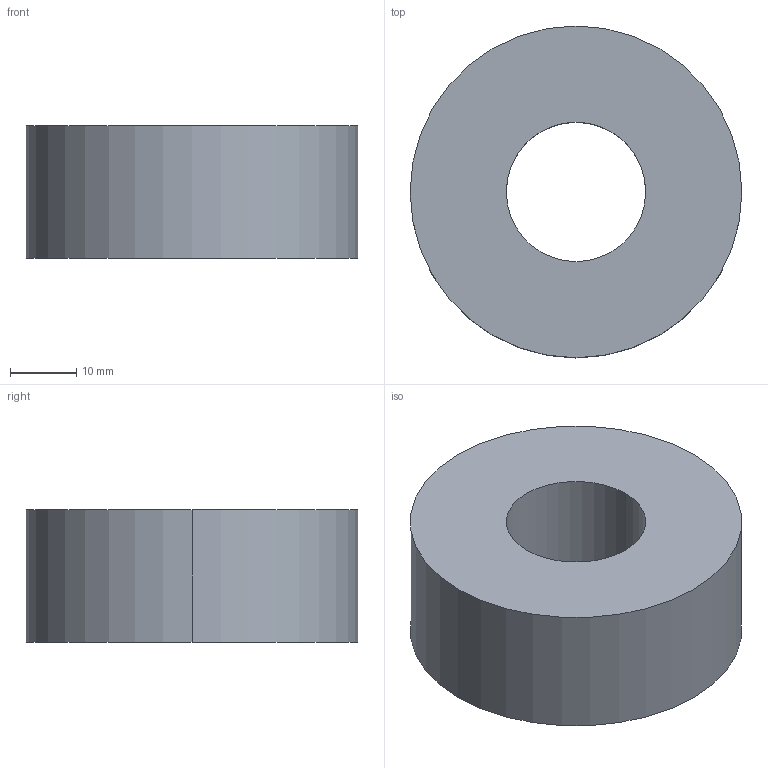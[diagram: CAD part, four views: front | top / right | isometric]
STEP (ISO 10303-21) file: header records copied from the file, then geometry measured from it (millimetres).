
FILE_DESCRIPTION (( 'STEP AP203' ), '1' );
FILE_NAME ('Piquage taraudé.STEP', '2019-02-25T13:42:24', ( '' ), ( '' ), 'SwSTEP 2.0', 'SolidWorks 2019', '' );
FILE_SCHEMA (( 'CONFIG_CONTROL_DESIGN' ));
Length unit declared in the file: millimetre
Products named in the file (1): Piquage taraudé
Bounding box: 50 x 50 x 20 mm (x, y, z)
Volume: 32342.7 mm3; surface area: 7695.3 mm2
Topology: 1 solids, 1 shells, 6 faces, 12 edges, 8 vertices
Faces by surface type: cylinder 4, plane 2
Entity records: 245 total; most frequent: DIRECTION 34, CARTESIAN_POINT 27, ORIENTED_EDGE 24, AXIS2_PLACEMENT_3D 15, EDGE_CURVE 12, VERTEX_POINT 8, EDGE_LOOP 8, CIRCLE 8
